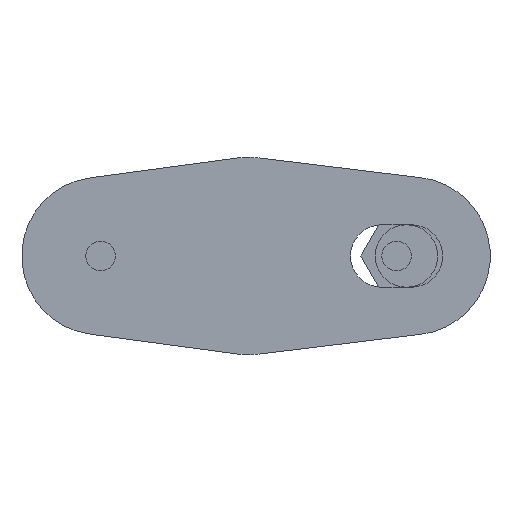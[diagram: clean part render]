
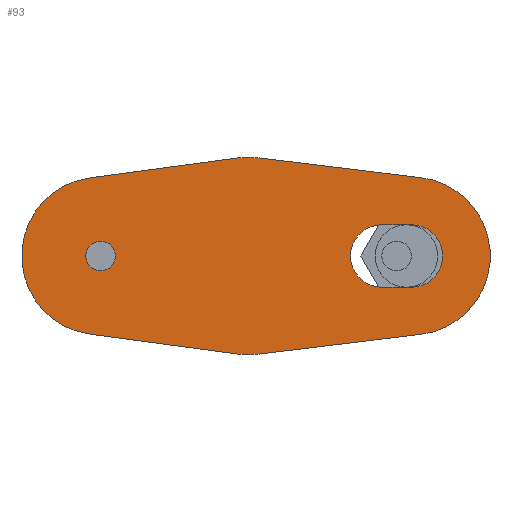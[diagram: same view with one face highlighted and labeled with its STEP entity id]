
A CAD part, front view. The second image highlights one B-rep face of the part: STEP entity #93.
In plain terms, the highlighted planar face has unit normal (0, -1, 0).
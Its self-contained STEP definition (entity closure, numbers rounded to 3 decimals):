
#93=ADVANCED_FACE('',(#179,#180,#181),#182,.F.);
#179=FACE_OUTER_BOUND('',#335,.T.);
#180=FACE_BOUND('',#336,.T.);
#181=FACE_BOUND('',#337,.T.);
#182=PLANE('',#338);
#335=EDGE_LOOP('',(#552,#553,#554,#555,#556,#557,#558,#559,#560,#561));
#336=EDGE_LOOP('',(#562,#563));
#337=EDGE_LOOP('',(#564,#565,#566,#567));
#338=AXIS2_PLACEMENT_3D('',#568,#569,#570);
#552=ORIENTED_EDGE('',*,*,#1067,.F.);
#553=ORIENTED_EDGE('',*,*,#1068,.F.);
#554=ORIENTED_EDGE('',*,*,#1069,.F.);
#555=ORIENTED_EDGE('',*,*,#1070,.F.);
#556=ORIENTED_EDGE('',*,*,#1021,.F.);
#557=ORIENTED_EDGE('',*,*,#1071,.F.);
#558=ORIENTED_EDGE('',*,*,#1072,.F.);
#559=ORIENTED_EDGE('',*,*,#1073,.F.);
#560=ORIENTED_EDGE('',*,*,#1074,.F.);
#561=ORIENTED_EDGE('',*,*,#1051,.F.);
#562=ORIENTED_EDGE('',*,*,#1028,.F.);
#563=ORIENTED_EDGE('',*,*,#1075,.F.);
#564=ORIENTED_EDGE('',*,*,#1076,.T.);
#565=ORIENTED_EDGE('',*,*,#1077,.T.);
#566=ORIENTED_EDGE('',*,*,#1078,.T.);
#567=ORIENTED_EDGE('',*,*,#1079,.T.);
#568=CARTESIAN_POINT('',(15.0,0.0,0.0));
#569=DIRECTION('',(-0.0,1.0,0.0));
#570=DIRECTION('',(1.0,0.0,0.0));
#1021=EDGE_CURVE('',#1188,#1191,#1192,.T.);
#1028=EDGE_CURVE('',#1204,#1205,#1206,.T.);
#1051=EDGE_CURVE('',#1246,#1248,#1249,.T.);
#1067=EDGE_CURVE('',#1275,#1246,#1276,.T.);
#1068=EDGE_CURVE('',#1277,#1275,#1278,.T.);
#1069=EDGE_CURVE('',#1279,#1277,#1280,.T.);
#1070=EDGE_CURVE('',#1191,#1279,#1281,.T.);
#1071=EDGE_CURVE('',#1282,#1188,#1283,.T.);
#1072=EDGE_CURVE('',#1284,#1282,#1285,.T.);
#1073=EDGE_CURVE('',#1286,#1284,#1287,.T.);
#1074=EDGE_CURVE('',#1248,#1286,#1288,.T.);
#1075=EDGE_CURVE('',#1205,#1204,#1289,.T.);
#1076=EDGE_CURVE('',#1290,#1291,#1292,.T.);
#1077=EDGE_CURVE('',#1291,#1293,#1294,.T.);
#1078=EDGE_CURVE('',#1293,#1295,#1296,.T.);
#1079=EDGE_CURVE('',#1295,#1290,#1297,.T.);
#1188=VERTEX_POINT('',#1466);
#1191=VERTEX_POINT('',#1470);
#1192=CIRCLE('',#1471,10.0);
#1204=VERTEX_POINT('',#1486);
#1205=VERTEX_POINT('',#1487);
#1206=CIRCLE('',#1488,1.5);
#1246=VERTEX_POINT('',#1540);
#1248=VERTEX_POINT('',#1543);
#1249=CIRCLE('',#1544,10.0);
#1275=VERTEX_POINT('',#1577);
#1276=CIRCLE('',#1578,10.0);
#1277=VERTEX_POINT('',#1579);
#1278=LINE('',#1580,#1581);
#1279=VERTEX_POINT('',#1582);
#1280=CIRCLE('',#1583,8.);
#1281=LINE('',#1584,#1585);
#1282=VERTEX_POINT('',#1586);
#1283=CIRCLE('',#1587,10.0);
#1284=VERTEX_POINT('',#1588);
#1285=LINE('',#1589,#1590);
#1286=VERTEX_POINT('',#1591);
#1287=CIRCLE('',#1592,8.0);
#1288=LINE('',#1593,#1594);
#1289=CIRCLE('',#1595,1.5);
#1290=VERTEX_POINT('',#1596);
#1291=VERTEX_POINT('',#1597);
#1292=CIRCLE('',#1598,3.17);
#1293=VERTEX_POINT('',#1599);
#1294=LINE('',#1600,#1601);
#1295=VERTEX_POINT('',#1602);
#1296=CIRCLE('',#1603,3.17);
#1297=LINE('',#1604,#1605);
#1466=CARTESIAN_POINT('',(15.0,0.0,10.0));
#1470=CARTESIAN_POINT('',(16.212,0.0,9.926));
#1471=AXIS2_PLACEMENT_3D('',#1863,#1864,#1865);
#1486=CARTESIAN_POINT('',(0.0,0.0,-1.5));
#1487=CARTESIAN_POINT('',(0.,0.0,1.5));
#1488=AXIS2_PLACEMENT_3D('',#1878,#1879,#1880);
#1540=CARTESIAN_POINT('',(15.0,0.0,-10.0));
#1543=CARTESIAN_POINT('',(13.667,0.0,-9.911));
#1544=AXIS2_PLACEMENT_3D('',#1921,#1922,#1923);
#1577=CARTESIAN_POINT('',(16.212,0.0,-9.926));
#1578=AXIS2_PLACEMENT_3D('',#1955,#1956,#1957);
#1579=CARTESIAN_POINT('',(32.47,0.0,-7.941));
#1580=CARTESIAN_POINT('',(16.212,0.0,-9.926));
#1581=VECTOR('',#1958,1000.0);
#1582=CARTESIAN_POINT('',(32.47,0.0,7.941));
#1583=AXIS2_PLACEMENT_3D('',#1959,#1960,#1961);
#1584=CARTESIAN_POINT('',(16.212,0.0,9.926));
#1585=VECTOR('',#1962,1000.0);
#1586=CARTESIAN_POINT('',(13.667,0.0,9.911));
#1587=AXIS2_PLACEMENT_3D('',#1963,#1964,#1965);
#1588=CARTESIAN_POINT('',(-1.067,0.0,7.929));
#1589=CARTESIAN_POINT('',(13.667,0.0,9.911));
#1590=VECTOR('',#1966,1000.0);
#1591=CARTESIAN_POINT('',(-1.067,0.0,-7.929));
#1592=AXIS2_PLACEMENT_3D('',#1967,#1968,#1969);
#1593=CARTESIAN_POINT('',(13.667,0.0,-9.911));
#1594=VECTOR('',#1970,1000.0);
#1595=AXIS2_PLACEMENT_3D('',#1971,#1972,#1973);
#1596=CARTESIAN_POINT('',(28.5,0.0,-3.17));
#1597=CARTESIAN_POINT('',(28.5,0.0,3.17));
#1598=AXIS2_PLACEMENT_3D('',#1974,#1975,#1976);
#1599=CARTESIAN_POINT('',(31.5,0.0,3.17));
#1600=CARTESIAN_POINT('',(28.5,0.0,3.17));
#1601=VECTOR('',#1977,1000.0);
#1602=CARTESIAN_POINT('',(31.5,0.0,-3.17));
#1603=AXIS2_PLACEMENT_3D('',#1978,#1979,#1980);
#1604=CARTESIAN_POINT('',(28.5,0.0,-3.17));
#1605=VECTOR('',#1981,1000.0);
#1863=CARTESIAN_POINT('',(15.0,0.0,0.0));
#1864=DIRECTION('',(0.0,1.0,0.0));
#1865=DIRECTION('',(0.0,0.0,1.0));
#1878=CARTESIAN_POINT('',(0.0,0.0,0.0));
#1879=DIRECTION('',(0.0,-1.0,0.0));
#1880=DIRECTION('',(0.0,0.0,1.0));
#1921=CARTESIAN_POINT('',(15.0,0.0,0.0));
#1922=DIRECTION('',(0.0,1.0,0.0));
#1923=DIRECTION('',(0.0,0.0,1.0));
#1955=CARTESIAN_POINT('',(15.0,0.0,0.0));
#1956=DIRECTION('',(0.0,1.0,0.0));
#1957=DIRECTION('',(0.0,0.0,1.0));
#1958=DIRECTION('',(-0.993,-0.0,-0.121));
#1959=CARTESIAN_POINT('',(31.5,0.0,0.0));
#1960=DIRECTION('',(0.0,1.0,0.0));
#1961=DIRECTION('',(0.0,0.0,1.0));
#1962=DIRECTION('',(0.993,0.0,-0.121));
#1963=CARTESIAN_POINT('',(15.0,0.0,0.0));
#1964=DIRECTION('',(0.0,1.0,0.0));
#1965=DIRECTION('',(0.0,0.0,1.0));
#1966=DIRECTION('',(0.991,-0.0,0.133));
#1967=CARTESIAN_POINT('',(0.0,0.0,0.0));
#1968=DIRECTION('',(0.0,1.0,0.0));
#1969=DIRECTION('',(0.0,0.0,1.0));
#1970=DIRECTION('',(-0.991,0.0,0.133));
#1971=CARTESIAN_POINT('',(0.0,0.0,0.0));
#1972=DIRECTION('',(0.0,-1.0,0.0));
#1973=DIRECTION('',(0.0,0.0,1.0));
#1974=CARTESIAN_POINT('',(28.5,0.0,0.0));
#1975=DIRECTION('',(0.0,1.0,0.0));
#1976=DIRECTION('',(0.0,0.0,1.0));
#1977=DIRECTION('',(1.0,0.0,0.0));
#1978=CARTESIAN_POINT('',(31.5,0.0,0.0));
#1979=DIRECTION('',(0.0,1.0,0.0));
#1980=DIRECTION('',(0.0,0.0,1.0));
#1981=DIRECTION('',(-1.0,-0.0,-0.0));
